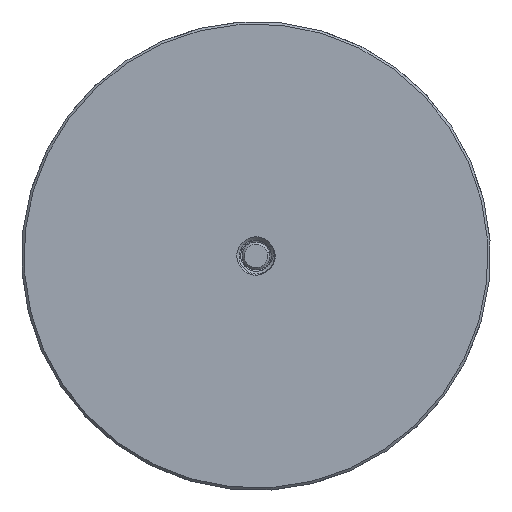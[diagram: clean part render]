
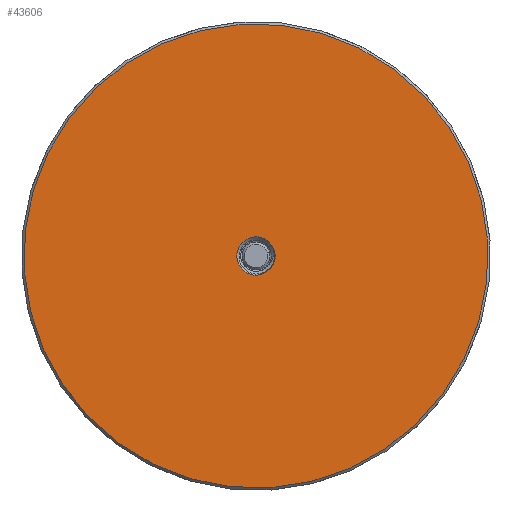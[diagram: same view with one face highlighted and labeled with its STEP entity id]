
A CAD part, front view. The second image highlights one B-rep face of the part: STEP entity #43606.
In plain terms, the highlighted planar face has unit normal (0, -1, 0).
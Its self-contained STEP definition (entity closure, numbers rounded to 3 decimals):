
#27058=CARTESIAN_POINT('',(0.,-8.89,0.));
#27059=DIRECTION('',(0.,-1.,0.));
#27060=DIRECTION('',(0.,0.,1.));
#27061=AXIS2_PLACEMENT_3D('',#27058,#27059,#27060);
#27063=CARTESIAN_POINT('',(0.,-8.89,0.));
#27064=DIRECTION('',(0.,-1.,0.));
#27065=DIRECTION('',(0.,0.,-1.));
#27066=AXIS2_PLACEMENT_3D('',#27063,#27064,#27065);
#27068=CARTESIAN_POINT('',(0.,-8.89,0.));
#27069=DIRECTION('',(0.,1.,0.));
#27070=DIRECTION('',(0.,0.,1.));
#27071=AXIS2_PLACEMENT_3D('',#27068,#27069,#27070);
#27073=CARTESIAN_POINT('',(0.,-8.89,0.));
#27074=DIRECTION('',(0.,1.,0.));
#27075=DIRECTION('',(0.,0.,-1.));
#27076=AXIS2_PLACEMENT_3D('',#27073,#27074,#27075);
#34200=CARTESIAN_POINT('',(0.,-8.89,-24.892));
#34201=CARTESIAN_POINT('',(0.,-8.89,24.892));
#34202=VERTEX_POINT('',#34200);
#34203=VERTEX_POINT('',#34201);
#34361=CARTESIAN_POINT('',(0.,-8.89,2.05));
#34362=CARTESIAN_POINT('',(0.,-8.89,-2.05));
#34363=VERTEX_POINT('',#34361);
#34364=VERTEX_POINT('',#34362);
#43591=CARTESIAN_POINT('',(0.,-8.89,0.));
#43592=DIRECTION('',(0.,1.,0.));
#43593=DIRECTION('',(0.,0.,1.));
#43594=AXIS2_PLACEMENT_3D('',#43591,#43592,#43593);
#43595=PLANE('',#43594);
#43597=ORIENTED_EDGE('',*,*,#43596,.F.);
#43599=ORIENTED_EDGE('',*,*,#43598,.F.);
#43600=EDGE_LOOP('',(#43597,#43599));
#43601=FACE_OUTER_BOUND('',#43600,.F.);
#43602=ORIENTED_EDGE('',*,*,#43568,.F.);
#43603=ORIENTED_EDGE('',*,*,#43584,.F.);
#43604=EDGE_LOOP('',(#43602,#43603));
#43605=FACE_BOUND('',#43604,.F.);
#43606=ADVANCED_FACE('',(#43601,#43605),#43595,.F.);
#27062=CIRCLE('',#27061,24.892);
#27067=CIRCLE('',#27066,24.892);
#27072=CIRCLE('',#27071,2.05);
#27077=CIRCLE('',#27076,2.05);
#43568=EDGE_CURVE('',#34363,#34364,#27072,.T.);
#43584=EDGE_CURVE('',#34364,#34363,#27077,.T.);
#43596=EDGE_CURVE('',#34203,#34202,#27062,.T.);
#43598=EDGE_CURVE('',#34202,#34203,#27067,.T.);
